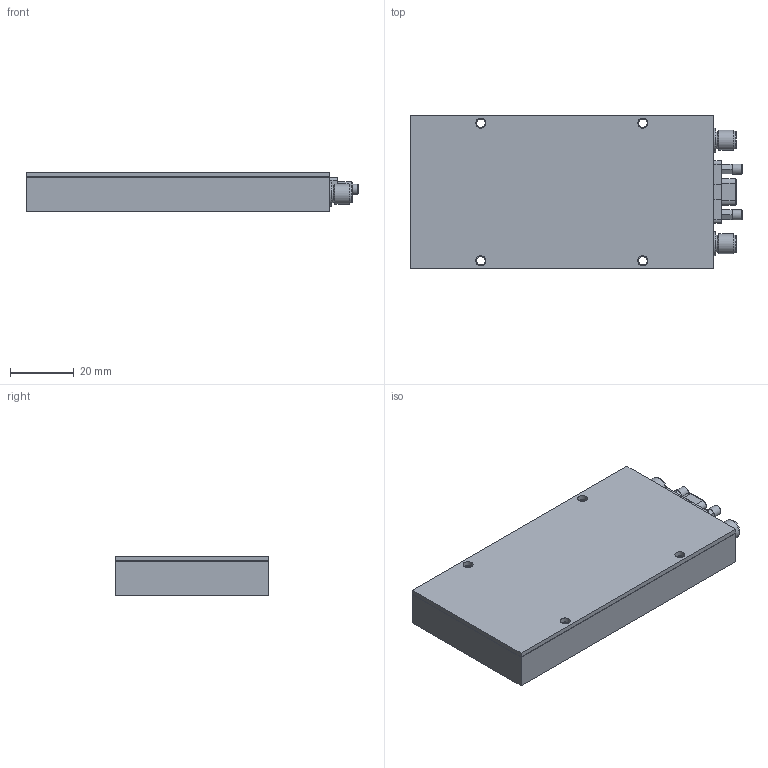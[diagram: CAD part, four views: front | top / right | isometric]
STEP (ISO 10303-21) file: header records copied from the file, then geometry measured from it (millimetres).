
FILE_DESCRIPTION((''),'2;1');
FILE_NAME('\\SERPENTOR\Engineering\ENG\Models\TAxxxx\TA1025 1700-2500MHz 5W Class A MRC\Inventor\116.stp','2015-07-22T15:52:41',('dcampbell'),(''),'Autodesk Inventor 2013','Autodesk Inventor 2013','');
FILE_SCHEMA(('AUTOMOTIVE_DESIGN { 1 0 10303 214 1 1 1 1 }'));
Length unit declared in the file: inch
Products named in the file (5): TA1025_STP; TA1025_HSG_STP; SMA; micro-D_1; 160-380-001R031-1
Assembly tree (6 placements, depth 2):
  TA1025_STP
    TA1025_HSG_STP
    SMA  x2
    micro-D_1
    160-380-001R031-1  x2
Bounding box: 104.11 x 48.26 x 12.52 mm (x, y, z)
Volume: 58199.4 mm3; surface area: 15366.6 mm2
Topology: 6 solids, 6 shells, 335 faces, 707 edges, 439 vertices
Faces by surface type: plane 185, cylinder 110, cone 14, bspline 13, torus 13
Full cylindrical faces by diameter (mm): 0.406 x9, 0.508 x18, 0.635 x2, 0.94 x9, 1.143 x2, 1.194 x2, 1.702 x4, 2.032 x2, 2.616 x2, 2.642 x4, 2.794 x2, 3.15 x2, 3.175 x4, 4.14 x2, 4.572 x2, 5.334 x4, 6.223 x2, 6.604 x2, 6.782 x2, 6.858 x2, 7.62 x2
Entity records: 7914 total; most frequent: CARTESIAN_POINT 1763, DIRECTION 1288, ORIENTED_EDGE 1004, AXIS2_PLACEMENT_3D 516, EDGE_CURVE 502, EDGE_LOOP 438, VERTEX_POINT 368, FACE_OUTER_BOUND 284
